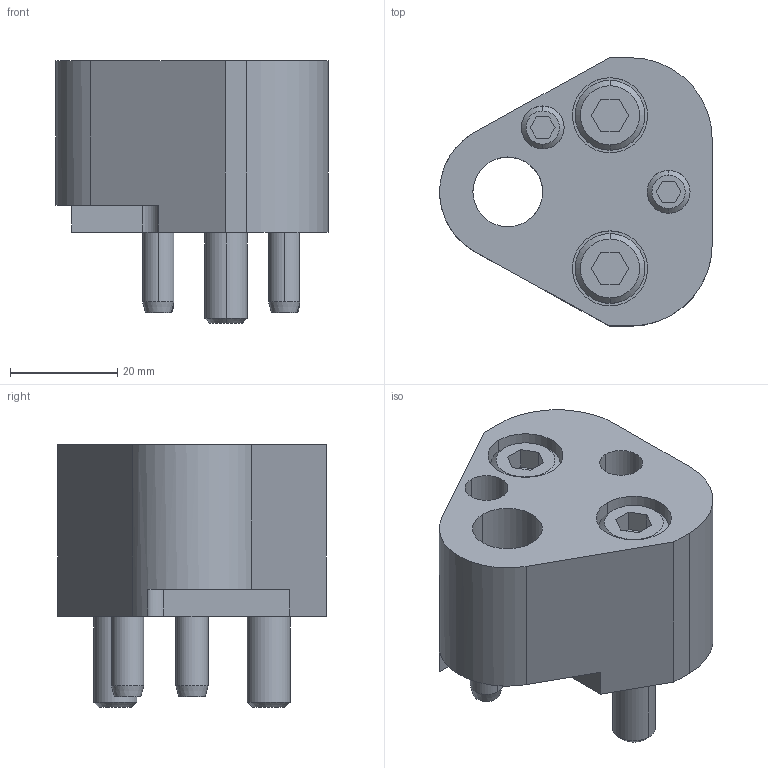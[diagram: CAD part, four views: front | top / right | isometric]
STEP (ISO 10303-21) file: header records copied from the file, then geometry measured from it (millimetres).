
FILE_DESCRIPTION(/* description */ (''),/* implementation_level */ '2;1');
FILE_NAME(/* name */ '3d_crnfr13_03659_r00.stp',/* time_stamp */ '2011-01-10T14:16:19+09:00',/* author */ ('MISUMI'),/* organization */ (''),/* preprocessor_version */ 'ST-DEVELOPER v11',/* originating_system */ 'UGS - NX 5.0',/* authorisation */ '');
FILE_SCHEMA (('CONFIG_CONTROL_DESIGN'));
Length unit declared in the file: millimetre
Products named in the file (1): 3d_crnfr13_03659_r00
Bounding box: 50.77 x 50 x 49 mm (x, y, z)
Volume: 53933.9 mm3; surface area: 18225.1 mm2
Topology: 7 solids, 7 shells, 136 faces, 304 edges, 195 vertices
Faces by surface type: plane 62, cylinder 48, cone 26
Entity records: 3927 total; most frequent: DIRECTION 695, CARTESIAN_POINT 695, ORIENTED_EDGE 608, EDGE_CURVE 304, AXIS2_PLACEMENT_3D 261, VERTEX_POINT 195, LINE 173, VECTOR 173
